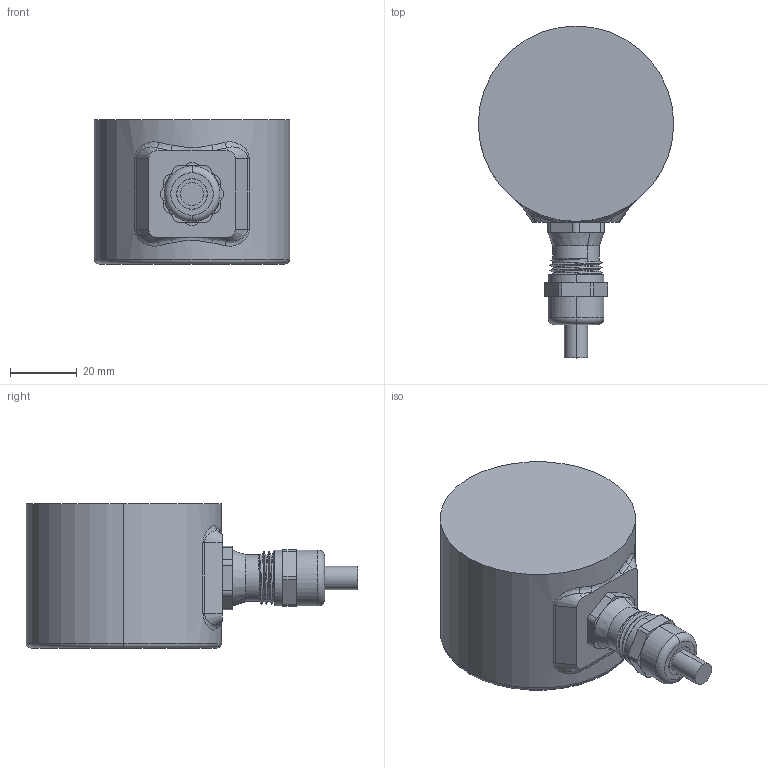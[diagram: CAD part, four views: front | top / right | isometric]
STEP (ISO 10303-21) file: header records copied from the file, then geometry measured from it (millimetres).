
FILE_DESCRIPTION (( 'STEP AP214' ), '1' );
FILE_NAME ('drawing-mc-5-cr-432-sws-12bnnn-n-2rv-l.STEP', '2018-05-22T11:50:32', ( '' ), ( '' ), 'SwSTEP 2.0', 'SolidWorks 2017', '' );
FILE_SCHEMA (( 'AUTOMOTIVE_DESIGN' ));
Length unit declared in the file: millimetre
Products named in the file (1): drawing-mc-5-cr-432-sws-12bnnn-n-2rv-l
Bounding box: 58.6 x 99.5 x 43.2 mm (x, y, z)
Volume: 15598.3 mm3; surface area: 32686.4 mm2
Topology: 8 solids, 8 shells, 417 faces, 1098 edges, 710 vertices
Faces by surface type: plane 181, cylinder 160, torus 33, bspline 29, cone 12, sphere 2
Entity records: 20149 total; most frequent: CARTESIAN_POINT 5421, ORIENTED_EDGE 2184, DIRECTION 2049, EDGE_CURVE 1092, AXIS2_PLACEMENT_3D 798, VERTEX_POINT 708, LINE 453, VECTOR 453
